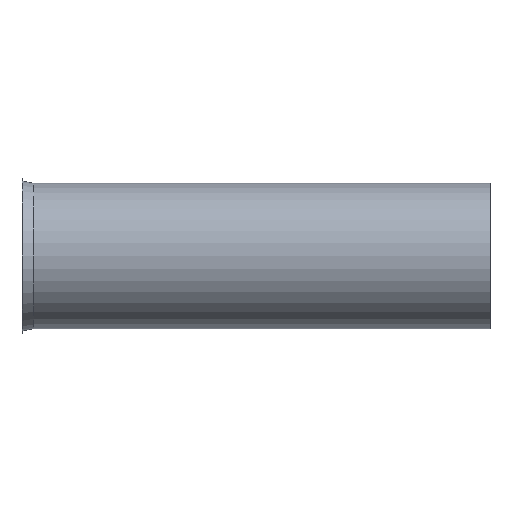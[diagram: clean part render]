
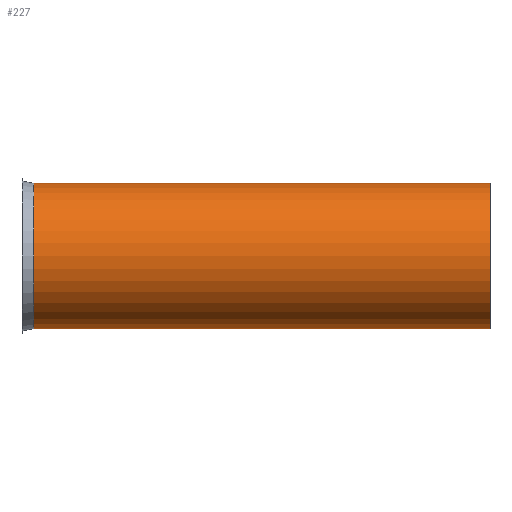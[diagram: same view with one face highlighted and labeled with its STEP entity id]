
A CAD part, front view. The second image highlights one B-rep face of the part: STEP entity #227.
In plain terms, the highlighted cylindrical face has radius 154 mm (diameter 308 mm), a full revolution.
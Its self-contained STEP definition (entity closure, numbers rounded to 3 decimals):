
#132=CARTESIAN_POINT('',(-2.081,46.834,0.0));
#133=VERTEX_POINT('',#132);
#134=CARTESIAN_POINT('',(-2.081,200.834,0.0));
#135=DIRECTION('',(-1.0,0.0,0.0));
#136=DIRECTION('',(0.0,-1.0,0.0));
#137=AXIS2_PLACEMENT_3D('',#134,#135,#136);
#138=CIRCLE('',#137,154.0);
#139=EDGE_CURVE('',#133,#133,#138,.T.);
#201=CARTESIAN_POINT('',(963.919,46.834,0.0));
#202=VERTEX_POINT('',#201);
#203=CARTESIAN_POINT('',(963.919,200.834,0.0));
#204=DIRECTION('',(-1.0,0.0,0.0));
#205=DIRECTION('',(0.0,-1.0,0.0));
#206=AXIS2_PLACEMENT_3D('',#203,#204,#205);
#207=CIRCLE('',#206,154.);
#208=EDGE_CURVE('',#202,#202,#207,.T.);
#216=CARTESIAN_POINT('',(480.919,200.834,0.0));
#217=DIRECTION('',(-1.0,0.,0.0));
#218=DIRECTION('',(0.0,-1.0,0.0));
#219=AXIS2_PLACEMENT_3D('',#216,#217,#218);
#220=CYLINDRICAL_SURFACE('',#219,154.);
#221=ORIENTED_EDGE('',*,*,#139,.F.);
#222=EDGE_LOOP('',(#221));
#223=FACE_OUTER_BOUND('',#222,.T.);
#224=ORIENTED_EDGE('',*,*,#208,.T.);
#225=EDGE_LOOP('',(#224));
#226=FACE_BOUND('',#225,.T.);
#227=ADVANCED_FACE('',(#223,#226),#220,.T.);
